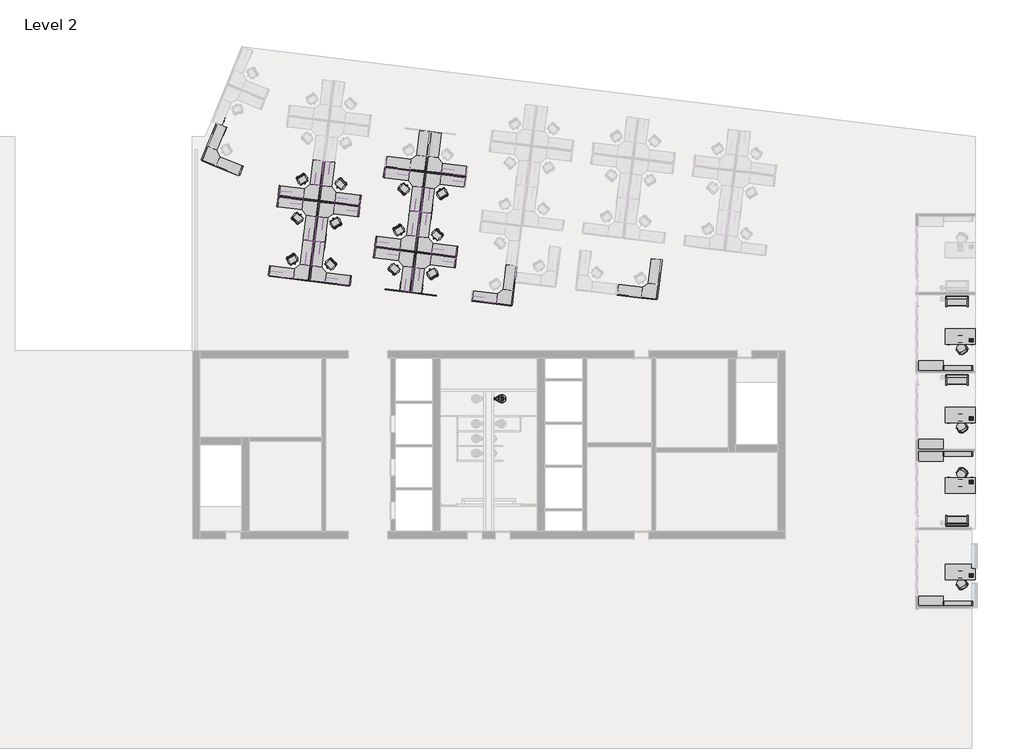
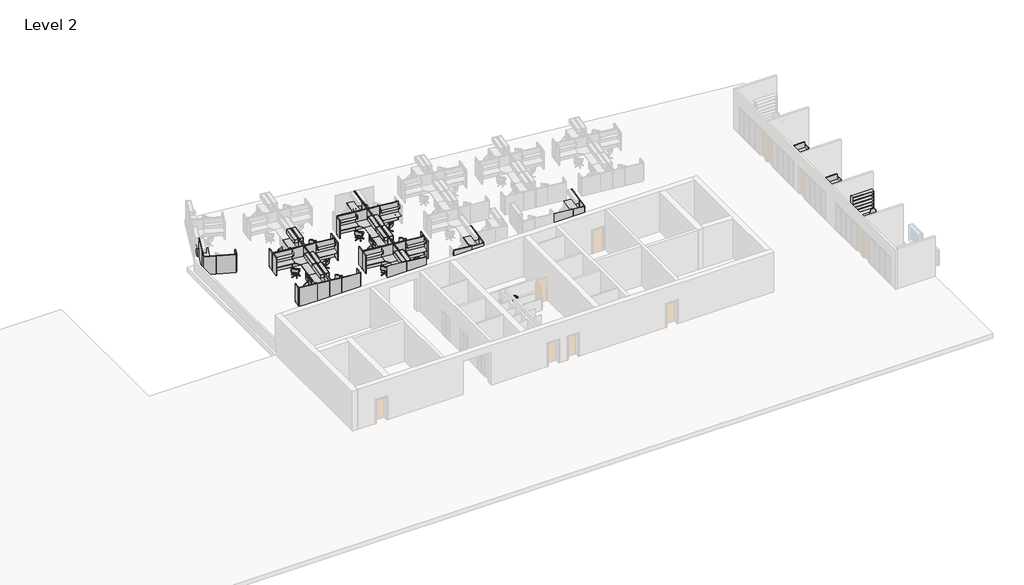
# One storey, part 4 of 6: 99 furniture elements, 4 proxies, 1 flow terminal.
"""IFC4 building model written with IfcOpenShell, lengths in millimetres."""

from ifc_helpers import new_model, si_unit, origin, place, context, project, spatial, transform, mapped, element, save
from components import phone_phone_5230e7aa, phone_phone_b8b7aebd, flow_terminal_184afdea, chair_executive_chair_executive_8d69e98c, chair_executive_chair_executive_a5be4872, chair_task_arms_chair_task_arms_3b363349, chair_task_arms_chair_task_arms_8395c10b, furniture_894c625b, furniture_2f1724fb, furniture_665347ce, furniture_3ceed070, furniture_00cef8f1, furniture_8d825890, furniture_2fc54265, furniture_91cd4dc0, overhead_shelving_module_overhead_shelving_module_3ee17988, overhead_shelving_module_overhead_shelving_module_7dcda1b9, overhead_storage_module_overhead_storage_module_326dc690, overhead_storage_module_overhead_storage_module_bea9f75f, furniture_6f8441ab, furniture_6d145fab, furniture_22419f35, furniture_8ec9ccbf, furniture_0333d240, furniture_4718bb14, furniture_45e3acac, furniture_7b33082a

model = new_model("IFC4")

# Units and contexts
model_context = context("Model", 3, world=origin())
ifc_project = project(units=[si_unit("LENGTHUNIT", "METRE", prefix="MILLI")], contexts=[model_context])

# Site, building, storey
site = spatial("IfcSite", under=ifc_project)
building = spatial("IfcBuilding", under=site)
storey = spatial("IfcBuildingStorey", under=building, Name="Level 2", Elevation=3657.6)

# Proxies
placement = place(None, origin())
phone_phone_shape = phone_phone_5230e7aa(model_context)
element("IfcBuildingElementProxy", 1, Name="Phone : Phone", ObjectType="Phone : Phone", at=placement, inside=storey, context=model_context, shape_type="MappedRepresentation", body=[
    mapped(phone_phone_shape, transform((15049.386755, -11543.7561102, 4419.6), x_axis=(1.0, 0.0, 0.0), y_axis=(0.0, 1.0, 0.0), z_axis=(0.0, 0.0, 1.0))),
])
phone_phone_2_shape = phone_phone_b8b7aebd(model_context)
element("IfcBuildingElementProxy", 2, Name="Phone : Phone", ObjectType="Phone : Phone", at=placement, inside=storey, context=model_context, shape_type="MappedRepresentation", body=[
    mapped(phone_phone_2_shape, transform((15049.386755, -2377.1766865, 4419.6), x_axis=(1.0, 0.0, 0.0), y_axis=(0.0, 1.0, 0.0), z_axis=(0.0, 0.0, 1.0))),
])
element("IfcBuildingElementProxy", 3, Name="Phone : Phone", ObjectType="Phone : Phone", at=placement, inside=storey, context=model_context, shape_type="MappedRepresentation", body=[
    mapped(phone_phone_2_shape, transform((15049.386755, -7211.6809871, 4419.6), x_axis=(1.0, 0.0, 0.0), y_axis=(0.0, 1.0, 0.0), z_axis=(0.0, 0.0, 1.0))),
])
element("IfcBuildingElementProxy", 4, Name="Phone : Phone", ObjectType="Phone : Phone", at=placement, inside=storey, context=model_context, shape_type="MappedRepresentation", body=[
    mapped(phone_phone_2_shape, transform((15049.386755, -16880.6895882, 4419.6), x_axis=(1.0, 0.0, 0.0), y_axis=(0.0, 1.0, 0.0), z_axis=(0.0, 0.0, 1.0))),
])

# Flow terminal
flow_terminal_shape = flow_terminal_184afdea(model_context)
element("IfcFlowTerminal", 5, ObjectType="Toilet-Commercial-Wall-3D : 15\" Seat Height", at=placement, inside=storey, context=model_context, shape_type="MappedRepresentation", body=[
    mapped(flow_terminal_shape, transform((-14687.1856498, -5795.2071954, 3657.6), x_axis=(0.0, -1.0, 0.0), y_axis=(1.0, 0.0, 0.0), z_axis=(0.0, 0.0, 1.0))),
])

# Furniture
chair_executive_chair_executive_shape = chair_executive_chair_executive_8d69e98c(model_context)
element("IfcFurniture", 6, ObjectType="Chair-Executive : Chair-Executive", at=placement, inside=storey, context=model_context, shape_type="MappedRepresentation", body=[
    mapped(chair_executive_chair_executive_shape, transform((14331.1988374, -10895.4183478, 3657.6), x_axis=(-0.8386705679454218, 0.5446390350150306, 0.0), y_axis=(-0.5446390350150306, -0.8386705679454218, 0.0), z_axis=(0.0, 0.0, 1.0))),
])
chair_executive_chair_executive_2_shape = chair_executive_chair_executive_a5be4872(model_context)
element("IfcFurniture", 7, ObjectType="Chair-Executive : Chair-Executive", at=placement, inside=storey, context=model_context, shape_type="MappedRepresentation", body=[
    mapped(chair_executive_chair_executive_2_shape, transform((14331.1988374, -3025.5144489, 3657.6), x_axis=(-0.8386705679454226, -0.5446390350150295, 0.0), y_axis=(0.5446390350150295, -0.8386705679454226, 0.0), z_axis=(0.0, 0.0, 1.0))),
])
element("IfcFurniture", 8, ObjectType="Chair-Executive : Chair-Executive", at=placement, inside=storey, context=model_context, shape_type="MappedRepresentation", body=[
    mapped(chair_executive_chair_executive_2_shape, transform((14331.1988374, -7860.0187495, 3657.6), x_axis=(-0.8386705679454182, -0.5446390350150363, 0.0), y_axis=(0.5446390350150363, -0.8386705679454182, 0.0), z_axis=(0.0, 0.0, 1.0))),
])
element("IfcFurniture", 9, ObjectType="Chair-Executive : Chair-Executive", at=placement, inside=storey, context=model_context, shape_type="MappedRepresentation", body=[
    mapped(chair_executive_chair_executive_2_shape, transform((14331.1988374, -17529.0273506, 3657.6), x_axis=(-0.8386705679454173, -0.5446390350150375, 0.0), y_axis=(0.5446390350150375, -0.8386705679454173, 0.0), z_axis=(0.0, 0.0, 1.0))),
])
chair_task_arms_chair_task_arms_shape = chair_task_arms_chair_task_arms_3b363349(model_context)
element("IfcFurniture", 10, ObjectType="Chair-Task Arms : Chair-Task Arms", at=placement, inside=storey, context=model_context, shape_type="MappedRepresentation", body=[
    mapped(chair_task_arms_chair_task_arms_shape, transform((-20294.5435692, 6809.0079878, 3657.6), x_axis=(0.719339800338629, -0.6946583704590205, 0.0), y_axis=(0.6946583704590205, 0.719339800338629, 0.0), z_axis=(0.0, 0.0, 1.0))),
])
element("IfcFurniture", 11, ObjectType="Chair-Task Arms : Chair-Task Arms", at=placement, inside=storey, context=model_context, shape_type="MappedRepresentation", body=[
    mapped(chair_task_arms_chair_task_arms_shape, transform((-23959.1336884, 6961.7514569, 3657.6), x_axis=(-0.7193398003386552, 0.6946583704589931, 0.0), y_axis=(-0.6946583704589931, -0.7193398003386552, 0.0), z_axis=(0.0, 0.0, 1.0))),
])
element("IfcFurniture", 12, ObjectType="Chair-Task Arms : Chair-Task Arms", at=placement, inside=storey, context=model_context, shape_type="MappedRepresentation", body=[
    mapped(chair_task_arms_chair_task_arms_shape, transform((-17997.8622143, 3824.2688972, 3657.6), x_axis=(-0.7193398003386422, 0.6946583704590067, 0.0), y_axis=(-0.6946583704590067, -0.7193398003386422, 0.0), z_axis=(0.0, 0.0, 1.0))),
])
element("IfcFurniture", 13, ObjectType="Chair-Task Arms : Chair-Task Arms", at=placement, inside=storey, context=model_context, shape_type="MappedRepresentation", body=[
    mapped(chair_task_arms_chair_task_arms_shape, transform((-24565.8480276, 2020.4596955, 3657.6), x_axis=(-0.7193398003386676, 0.6946583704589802, 0.0), y_axis=(-0.6946583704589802, -0.7193398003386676, 0.0), z_axis=(0.0, 0.0, 1.0))),
])
element("IfcFurniture", 14, ObjectType="Chair-Task Arms : Chair-Task Arms", at=placement, inside=storey, context=model_context, shape_type="MappedRepresentation", body=[
    mapped(chair_task_arms_chair_task_arms_shape, transform((-20901.2579084, 1867.7162265, 3657.6), x_axis=(0.7193398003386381, -0.694658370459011, 0.0), y_axis=(0.694658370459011, 0.7193398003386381, 0.0), z_axis=(0.0, 0.0, 1.0))),
])
element("IfcFurniture", 15, ObjectType="Chair-Task Arms : Chair-Task Arms", at=placement, inside=storey, context=model_context, shape_type="MappedRepresentation", body=[
    mapped(chair_task_arms_chair_task_arms_shape, transform((-26862.5293825, 5005.1987861, 3657.6), x_axis=(0.7193398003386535, -0.6946583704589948, 0.0), y_axis=(0.6946583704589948, 0.7193398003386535, 0.0), z_axis=(0.0, 0.0, 1.0))),
])
chair_task_arms_chair_task_arms_2_shape = chair_task_arms_chair_task_arms_8395c10b(model_context)
element("IfcFurniture", 16, ObjectType="Chair-Task Arms : Chair-Task Arms", at=placement, inside=storey, context=model_context, shape_type="MappedRepresentation", body=[
    mapped(chair_task_arms_chair_task_arms_2_shape, transform((-17670.9359707, 6486.8694808, 3657.6), x_axis=(-0.866025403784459, -0.49999999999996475, 0.0), y_axis=(0.49999999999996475, -0.866025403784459, 0.0), z_axis=(0.0, 0.0, 1.0))),
])
element("IfcFurniture", 17, ObjectType="Chair-Task Arms : Chair-Task Arms", at=placement, inside=storey, context=model_context, shape_type="MappedRepresentation", body=[
    mapped(chair_task_arms_chair_task_arms_2_shape, transform((-20621.4698127, 4146.4074042, 3657.6), x_axis=(0.8660254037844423, 0.4999999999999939, 0.0), y_axis=(-0.4999999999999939, 0.8660254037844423, 0.0), z_axis=(0.0, 0.0, 1.0))),
])
element("IfcFurniture", 18, ObjectType="Chair-Task Arms : Chair-Task Arms", at=placement, inside=storey, context=model_context, shape_type="MappedRepresentation", body=[
    mapped(chair_task_arms_chair_task_arms_2_shape, transform((-24238.921784, 4683.0602792, 3657.6), x_axis=(-0.8660254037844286, -0.5000000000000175, 0.0), y_axis=(0.5000000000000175, -0.8660254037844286, 0.0), z_axis=(0.0, 0.0, 1.0))),
])
element("IfcFurniture", 19, ObjectType="Chair-Task Arms : Chair-Task Arms", at=placement, inside=storey, context=model_context, shape_type="MappedRepresentation", body=[
    mapped(chair_task_arms_chair_task_arms_2_shape, transform((-18277.6503099, 1545.5777195, 3657.6), x_axis=(-0.8660254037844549, -0.4999999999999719, 0.0), y_axis=(0.4999999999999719, -0.8660254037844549, 0.0), z_axis=(0.0, 0.0, 1.0))),
])
element("IfcFurniture", 20, ObjectType="Chair-Task Arms : Chair-Task Arms", at=placement, inside=storey, context=model_context, shape_type="MappedRepresentation", body=[
    mapped(chair_task_arms_chair_task_arms_2_shape, transform((-26582.7412868, 7283.8899638, 3657.6), x_axis=(0.8660254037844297, 0.5000000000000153, 0.0), y_axis=(-0.5000000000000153, 0.8660254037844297, 0.0), z_axis=(0.0, 0.0, 1.0))),
])
element("IfcFurniture", 21, ObjectType="Chair-Task Arms : Chair-Task Arms", at=placement, inside=storey, context=model_context, shape_type="MappedRepresentation", body=[
    mapped(chair_task_arms_chair_task_arms_2_shape, transform((-27189.455626, 2342.5982025, 3657.6), x_axis=(0.8660254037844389, 0.49999999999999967, 0.0), y_axis=(-0.49999999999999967, 0.8660254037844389, 0.0), z_axis=(0.0, 0.0, 1.0))),
])
furniture_shape = furniture_894c625b(model_context)
element("IfcFurniture", 22, ObjectType="Credenza : 60\" x 24\"", at=placement, inside=storey, context=model_context, shape_type="MappedRepresentation", body=[
    mapped(furniture_shape, transform((12221.5111465, -4173.1445759, 3657.6), x_axis=(1.0, 0.0, 0.0), y_axis=(0.0, 1.0, 0.0), z_axis=(0.0, 0.0, 1.0))),
])
element("IfcFurniture", 23, ObjectType="Credenza : 60\" x 24\"", at=placement, inside=storey, context=model_context, shape_type="MappedRepresentation", body=[
    mapped(furniture_shape, transform((12221.5111465, -9007.6488765, 3657.6), x_axis=(1.0, 0.0, 0.0), y_axis=(0.0, 1.0, 0.0), z_axis=(0.0, 0.0, 1.0))),
])
element("IfcFurniture", 24, ObjectType="Credenza : 60\" x 24\"", at=placement, inside=storey, context=model_context, shape_type="MappedRepresentation", body=[
    mapped(furniture_shape, transform((12221.5111465, -18676.6574776, 3657.6), x_axis=(1.0, 0.0, 0.0), y_axis=(0.0, 1.0, 0.0), z_axis=(0.0, 0.0, 1.0))),
])
furniture_2_shape = furniture_2f1724fb(model_context)
element("IfcFurniture", 25, ObjectType="Credenza : 60\" x 24\"", at=placement, inside=storey, context=model_context, shape_type="MappedRepresentation", body=[
    mapped(furniture_2_shape, transform((12221.5111465, -9747.7882208, 3657.6), x_axis=(1.0, 0.0, 0.0), y_axis=(0.0, 1.0, 0.0), z_axis=(0.0, 0.0, 1.0))),
])
furniture_3_shape = furniture_665347ce(model_context)
element("IfcFurniture", 26, ObjectType="Cube Panel : 24\" x 66\"", at=placement, inside=storey, context=model_context, shape_type="MappedRepresentation", body=[
    mapped(furniture_3_shape, transform((-21382.0390135, 7740.7875626, 3657.6), x_axis=(-0.12186934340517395, -0.9925461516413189, 0.0), y_axis=(0.9925461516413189, -0.12186934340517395, 0.0), z_axis=(0.0, 0.0, 1.0))),
])
element("IfcFurniture", 27, ObjectType="Cube Panel : 24\" x 66\"", at=placement, inside=storey, context=model_context, shape_type="MappedRepresentation", body=[
    mapped(furniture_3_shape, transform((-22871.638244, 6029.9718821, 3657.6), x_axis=(0.12186934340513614, 0.9925461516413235, 0.0), y_axis=(-0.9925461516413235, 0.12186934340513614, 0.0), z_axis=(0.0, 0.0, 1.0))),
])
element("IfcFurniture", 28, ObjectType="Cube Panel : 24\" x 66\"", at=placement, inside=storey, context=model_context, shape_type="MappedRepresentation", body=[
    mapped(furniture_3_shape, transform((-16910.3667699, 2892.4893225, 3657.6), x_axis=(0.12186934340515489, 0.9925461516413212, 0.0), y_axis=(-0.9925461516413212, 0.12186934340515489, 0.0), z_axis=(0.0, 0.0, 1.0))),
])
element("IfcFurniture", 29, ObjectType="Cube Panel : 24\" x 66\"", at=placement, inside=storey, context=model_context, shape_type="MappedRepresentation", body=[
    mapped(furniture_3_shape, transform((-23478.3525832, 1088.6801208, 3657.6), x_axis=(0.12186934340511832, 0.9925461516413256, 0.0), y_axis=(-0.9925461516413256, 0.12186934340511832, 0.0), z_axis=(0.0, 0.0, 1.0))),
])
element("IfcFurniture", 30, ObjectType="Cube Panel : 24\" x 66\"", at=placement, inside=storey, context=model_context, shape_type="MappedRepresentation", body=[
    mapped(furniture_3_shape, transform((-21988.7533528, 2799.4958013, 3657.6), x_axis=(-0.12186934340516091, -0.9925461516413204, 0.0), y_axis=(0.9925461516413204, -0.12186934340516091, 0.0), z_axis=(0.0, 0.0, 1.0))),
])
element("IfcFurniture", 31, ObjectType="Cube Panel : 24\" x 66\"", at=placement, inside=storey, context=model_context, shape_type="MappedRepresentation", body=[
    mapped(furniture_3_shape, transform((-27950.0248269, 5936.9783609, 3657.6), x_axis=(-0.12186934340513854, -0.9925461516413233, 0.0), y_axis=(0.9925461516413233, -0.12186934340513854, 0.0), z_axis=(0.0, 0.0, 1.0))),
])
element("IfcFurniture", 32, ObjectType="Cube Panel : 24\" x 66\"", at=placement, inside=storey, context=model_context, shape_type="MappedRepresentation", body=[
    mapped(furniture_3_shape, transform((-30219.5912683, 7857.7185256, 3657.6), x_axis=(0.3785502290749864, 0.9255807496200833, 0.0), y_axis=(-0.9255807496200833, 0.3785502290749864, 0.0), z_axis=(0.0, 0.0, 1.0))),
])
furniture_4_shape = furniture_3ceed070(model_context)
element("IfcFurniture", 33, ObjectType="Cube Panel : 24\" x 66\"", at=placement, inside=storey, context=model_context, shape_type="MappedRepresentation", body=[
    mapped(furniture_4_shape, transform((-21902.0798757, 3505.3946243, 3657.6), x_axis=(0.12186934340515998, 0.9925461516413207, 0.0), y_axis=(-0.9925461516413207, 0.12186934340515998, 0.0), z_axis=(0.0, 0.0, 1.0))),
])
element("IfcFurniture", 34, ObjectType="Cube Panel : 24\" x 66\"", at=placement, inside=storey, context=model_context, shape_type="MappedRepresentation", body=[
    mapped(furniture_4_shape, transform((-22958.311721, 5324.073059, 3657.6), x_axis=(-0.12186934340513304, -0.992546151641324, 0.0), y_axis=(0.992546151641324, -0.12186934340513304, 0.0), z_axis=(0.0, 0.0, 1.0))),
])
element("IfcFurniture", 35, ObjectType="Cube Panel : 24\" x 66\"", at=placement, inside=storey, context=model_context, shape_type="MappedRepresentation", body=[
    mapped(furniture_4_shape, transform((-16997.0402469, 2186.5904994, 3657.6), x_axis=(-0.12186934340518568, -0.9925461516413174, 0.0), y_axis=(0.9925461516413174, -0.12186934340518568, 0.0), z_axis=(0.0, 0.0, 1.0))),
])
element("IfcFurniture", 36, ObjectType="Cube Panel : 24\" x 66\"", at=placement, inside=storey, context=model_context, shape_type="MappedRepresentation", body=[
    mapped(furniture_4_shape, transform((-27863.3513498, 6642.8771839, 3657.6), x_axis=(0.12186934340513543, 0.9925461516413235, 0.0), y_axis=(-0.9925461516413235, 0.12186934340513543, 0.0), z_axis=(0.0, 0.0, 1.0))),
])
element("IfcFurniture", 37, ObjectType="Cube Panel : 24\" x 66\"", at=placement, inside=storey, context=model_context, shape_type="MappedRepresentation", body=[
    mapped(furniture_4_shape, transform((-28470.065689, 1701.5854226, 3657.6), x_axis=(0.12186934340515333, 0.9925461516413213, 0.0), y_axis=(-0.9925461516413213, 0.12186934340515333, 0.0), z_axis=(0.0, 0.0, 1.0))),
])
furniture_5_shape = furniture_00cef8f1(model_context)
element("IfcFurniture", 38, ObjectType="Cube Panel : 60\" x 66\"", at=placement, inside=storey, context=model_context, shape_type="MappedRepresentation", body=[
    mapped(furniture_5_shape, transform((-20562.7542243, 449.1914113, 3657.6), x_axis=(-0.9925461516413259, 0.12186934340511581, 0.0), y_axis=(-0.12186934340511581, -0.9925461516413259, 0.0), z_axis=(0.0, 0.0, 1.0))),
])
furniture_6_shape = furniture_8d825890(model_context)
element("IfcFurniture", 39, ObjectType="Cube Panel : 60\" x 66\"", at=placement, inside=storey, context=model_context, shape_type="MappedRepresentation", body=[
    mapped(furniture_6_shape, transform((-18949.2712002, 251.0806066, 3657.6), x_axis=(0.9925461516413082, -0.12186934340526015, 0.0), y_axis=(0.12186934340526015, 0.9925461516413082, 0.0), z_axis=(0.0, 0.0, 1.0))),
])
furniture_7_shape = furniture_2fc54265(model_context)
element("IfcFurniture", 40, ObjectType="Desk : 72\" x 36\"", at=placement, inside=storey, context=model_context, shape_type="MappedRepresentation", body=[
    mapped(furniture_7_shape, transform((13214.5054088, -12007.5598812, 3657.6), x_axis=(1.0, 0.0, 0.0), y_axis=(0.0, 1.0, 0.0), z_axis=(0.0, 0.0, 1.0))),
])
furniture_8_shape = furniture_91cd4dc0(model_context)
element("IfcFurniture", 41, ObjectType="Desk : 72\" x 36\"", at=placement, inside=storey, context=model_context, shape_type="MappedRepresentation", body=[
    mapped(furniture_8_shape, transform((13214.5054088, -1913.3729155, 3657.6), x_axis=(1.0, 0.0, 0.0), y_axis=(0.0, 1.0, 0.0), z_axis=(0.0, 0.0, 1.0))),
])
element("IfcFurniture", 42, ObjectType="Desk : 72\" x 36\"", at=placement, inside=storey, context=model_context, shape_type="MappedRepresentation", body=[
    mapped(furniture_8_shape, transform((13214.5054088, -6747.877216, 3657.6), x_axis=(1.0, 0.0, 0.0), y_axis=(0.0, 1.0, 0.0), z_axis=(0.0, 0.0, 1.0))),
])
element("IfcFurniture", 43, ObjectType="Desk : 72\" x 36\"", at=placement, inside=storey, context=model_context, shape_type="MappedRepresentation", body=[
    mapped(furniture_8_shape, transform((13214.5054088, -16416.8858172, 3657.6), x_axis=(1.0, 0.0, 0.0), y_axis=(0.0, 1.0, 0.0), z_axis=(0.0, 0.0, 1.0))),
])
overhead_shelving_module_overhead_shelving_module_shape = overhead_shelving_module_overhead_shelving_module_3ee17988(model_context)
element("IfcFurniture", 44, ObjectType="Overhead Shelving Module : Overhead Shelving Module", at=placement, inside=storey, context=model_context, shape_type="MappedRepresentation", body=[
    mapped(overhead_shelving_module_overhead_shelving_module_shape, transform((-20435.5371217, 7693.7235514, 3505.2), x_axis=(0.9925461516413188, -0.12186934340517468, 0.0), y_axis=(0.12186934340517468, 0.9925461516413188, 0.0), z_axis=(0.0, 0.0, 1.0))),
])
element("IfcFurniture", 45, ObjectType="Overhead Shelving Module : Overhead Shelving Module", at=placement, inside=storey, context=model_context, shape_type="MappedRepresentation", body=[
    mapped(overhead_shelving_module_overhead_shelving_module_shape, transform((-17250.1543225, 7880.8450949, 3505.2), x_axis=(-0.9925461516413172, 0.12186934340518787, 0.0), y_axis=(-0.12186934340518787, -0.9925461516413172, 0.0), z_axis=(0.0, 0.0, 1.0))),
])
element("IfcFurniture", 46, ObjectType="Overhead Shelving Module : Overhead Shelving Module", at=placement, inside=storey, context=model_context, shape_type="MappedRepresentation", body=[
    mapped(overhead_shelving_module_overhead_shelving_module_shape, transform((-23818.1401358, 6077.0358932, 3505.2), x_axis=(-0.9925461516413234, 0.12186934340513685, 0.0), y_axis=(-0.12186934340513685, -0.9925461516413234, 0.0), z_axis=(0.0, 0.0, 1.0))),
])
element("IfcFurniture", 47, ObjectType="Overhead Shelving Module : Overhead Shelving Module", at=placement, inside=storey, context=model_context, shape_type="MappedRepresentation", body=[
    mapped(overhead_shelving_module_overhead_shelving_module_shape, transform((-17856.8686617, 2939.5533336, 3505.2), x_axis=(-0.9925461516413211, 0.12186934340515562, 0.0), y_axis=(-0.12186934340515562, -0.9925461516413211, 0.0), z_axis=(0.0, 0.0, 1.0))),
])
element("IfcFurniture", 48, ObjectType="Overhead Shelving Module : Overhead Shelving Module", at=placement, inside=storey, context=model_context, shape_type="MappedRepresentation", body=[
    mapped(overhead_shelving_module_overhead_shelving_module_shape, transform((-24424.8544751, 1135.7441319, 3505.2), x_axis=(-0.9925461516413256, 0.12186934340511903, 0.0), y_axis=(-0.12186934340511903, -0.9925461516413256, 0.0), z_axis=(0.0, 0.0, 1.0))),
])
element("IfcFurniture", 49, ObjectType="Overhead Shelving Module : Overhead Shelving Module", at=placement, inside=storey, context=model_context, shape_type="MappedRepresentation", body=[
    mapped(overhead_shelving_module_overhead_shelving_module_shape, transform((-21042.2514609, 2752.4317901, 3505.2), x_axis=(0.9925461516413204, -0.12186934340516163, 0.0), y_axis=(0.12186934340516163, 0.9925461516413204, 0.0), z_axis=(0.0, 0.0, 1.0))),
])
element("IfcFurniture", 50, ObjectType="Overhead Shelving Module : Overhead Shelving Module", at=placement, inside=storey, context=model_context, shape_type="MappedRepresentation", body=[
    mapped(overhead_shelving_module_overhead_shelving_module_shape, transform((-27003.522935, 5889.9143497, 3505.2), x_axis=(0.9925461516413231, -0.12186934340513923, 0.0), y_axis=(0.12186934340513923, 0.9925461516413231, 0.0), z_axis=(0.0, 0.0, 1.0))),
])
overhead_shelving_module_overhead_shelving_module_2_shape = overhead_shelving_module_overhead_shelving_module_7dcda1b9(model_context)
element("IfcFurniture", 51, ObjectType="Overhead Shelving Module : Overhead Shelving Module", at=placement, inside=storey, context=model_context, shape_type="MappedRepresentation", body=[
    mapped(overhead_shelving_module_overhead_shelving_module_2_shape, transform((-17320.0984631, 7311.1957837, 3505.2), x_axis=(-0.9925461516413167, 0.12186934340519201, 0.0), y_axis=(-0.12186934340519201, -0.9925461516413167, 0.0), z_axis=(0.0, 0.0, 1.0))),
])
element("IfcFurniture", 52, ObjectType="Overhead Shelving Module : Overhead Shelving Module", at=placement, inside=storey, context=model_context, shape_type="MappedRepresentation", body=[
    mapped(overhead_shelving_module_overhead_shelving_module_2_shape, transform((-20972.3073204, 3322.0811013, 3505.2), x_axis=(0.9925461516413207, -0.12186934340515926, 0.0), y_axis=(0.12186934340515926, 0.9925461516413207, 0.0), z_axis=(0.0, 0.0, 1.0))),
])
element("IfcFurniture", 53, ObjectType="Overhead Shelving Module : Overhead Shelving Module", at=placement, inside=storey, context=model_context, shape_type="MappedRepresentation", body=[
    mapped(overhead_shelving_module_overhead_shelving_module_2_shape, transform((-15035.7996968, -17.0868363, 3505.2), x_axis=(0.9925461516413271, -0.12186934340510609, 0.0), y_axis=(0.12186934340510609, 0.9925461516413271, 0.0), z_axis=(0.0, 0.0, 1.0))),
])
element("IfcFurniture", 54, ObjectType="Overhead Shelving Module : Overhead Shelving Module", at=placement, inside=storey, context=model_context, shape_type="MappedRepresentation", body=[
    mapped(overhead_shelving_module_overhead_shelving_module_2_shape, transform((-23888.0842764, 5507.386582, 3505.2), x_axis=(-0.992546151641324, 0.12186934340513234, 0.0), y_axis=(-0.12186934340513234, -0.992546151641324, 0.0), z_axis=(0.0, 0.0, 1.0))),
])
element("IfcFurniture", 55, ObjectType="Overhead Shelving Module : Overhead Shelving Module", at=placement, inside=storey, context=model_context, shape_type="MappedRepresentation", body=[
    mapped(overhead_shelving_module_overhead_shelving_module_2_shape, transform((-17926.8128023, 2369.9040224, 3505.2), x_axis=(-0.9925461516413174, 0.12186934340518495, 0.0), y_axis=(-0.12186934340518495, -0.9925461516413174, 0.0), z_axis=(0.0, 0.0, 1.0))),
])
element("IfcFurniture", 56, ObjectType="Overhead Shelving Module : Overhead Shelving Module", at=placement, inside=storey, context=model_context, shape_type="MappedRepresentation", body=[
    mapped(overhead_shelving_module_overhead_shelving_module_2_shape, transform((-26933.5787945, 6459.563661, 3505.2), x_axis=(0.9925461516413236, -0.12186934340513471, 0.0), y_axis=(0.12186934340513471, 0.9925461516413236, 0.0), z_axis=(0.0, 0.0, 1.0))),
])
element("IfcFurniture", 57, ObjectType="Overhead Shelving Module : Overhead Shelving Module", at=placement, inside=storey, context=model_context, shape_type="MappedRepresentation", body=[
    mapped(overhead_shelving_module_overhead_shelving_module_2_shape, transform((-27540.2931337, 1518.2718996, 3505.2), x_axis=(0.9925461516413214, -0.12186934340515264, 0.0), y_axis=(0.12186934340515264, 0.9925461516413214, 0.0), z_axis=(0.0, 0.0, 1.0))),
])
overhead_storage_module_overhead_storage_module_shape = overhead_storage_module_overhead_storage_module_326dc690(model_context)
element("IfcFurniture", 58, ObjectType="Overhead Storage Module : Overhead Storage Module", at=placement, inside=storey, context=model_context, shape_type="MappedRepresentation", body=[
    mapped(overhead_storage_module_overhead_storage_module_shape, transform((-19357.3919537, 5951.3242965, 3657.6), x_axis=(-0.12186934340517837, -0.9925461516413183, 0.0), y_axis=(0.9925461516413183, -0.12186934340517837, 0.0), z_axis=(0.0, 0.0, 1.0))),
])
element("IfcFurniture", 59, ObjectType="Overhead Storage Module : Overhead Storage Module", at=placement, inside=storey, context=model_context, shape_type="MappedRepresentation", body=[
    mapped(overhead_storage_module_overhead_storage_module_shape, transform((-24896.2853038, 7819.4351481, 3657.6), x_axis=(0.12186934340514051, 0.992546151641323, 0.0), y_axis=(-0.992546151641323, 0.12186934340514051, 0.0), z_axis=(0.0, 0.0, 1.0))),
])
element("IfcFurniture", 60, ObjectType="Overhead Storage Module : Overhead Storage Module", at=placement, inside=storey, context=model_context, shape_type="MappedRepresentation", body=[
    mapped(overhead_storage_module_overhead_storage_module_shape, transform((-18935.0138297, 4681.9525885, 3657.6), x_axis=(0.12186934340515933, 0.9925461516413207, 0.0), y_axis=(-0.9925461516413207, 0.12186934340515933, 0.0), z_axis=(0.0, 0.0, 1.0))),
])
element("IfcFurniture", 61, ObjectType="Overhead Storage Module : Overhead Storage Module", at=placement, inside=storey, context=model_context, shape_type="MappedRepresentation", body=[
    mapped(overhead_storage_module_overhead_storage_module_shape, transform((-25502.999643, 2878.1433868, 3657.6), x_axis=(0.12186934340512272, 0.9925461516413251, 0.0), y_axis=(-0.9925461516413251, 0.12186934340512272, 0.0), z_axis=(0.0, 0.0, 1.0))),
])
element("IfcFurniture", 62, ObjectType="Overhead Storage Module : Overhead Storage Module", at=placement, inside=storey, context=model_context, shape_type="MappedRepresentation", body=[
    mapped(overhead_storage_module_overhead_storage_module_shape, transform((-19964.1062929, 1010.0325352, 3657.6), x_axis=(-0.12186934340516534, -0.99254615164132, 0.0), y_axis=(0.99254615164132, -0.12186934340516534, 0.0), z_axis=(0.0, 0.0, 1.0))),
])
element("IfcFurniture", 63, ObjectType="Overhead Storage Module : Overhead Storage Module", at=placement, inside=storey, context=model_context, shape_type="MappedRepresentation", body=[
    mapped(overhead_storage_module_overhead_storage_module_shape, transform((-25925.377767, 4147.5150948, 3657.6), x_axis=(-0.12186934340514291, -0.9925461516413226, 0.0), y_axis=(0.9925461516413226, -0.12186934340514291, 0.0), z_axis=(0.0, 0.0, 1.0))),
])
overhead_storage_module_overhead_storage_module_2_shape = overhead_storage_module_overhead_storage_module_bea9f75f(model_context)
element("IfcFurniture", 64, ObjectType="Overhead Storage Module : Overhead Storage Module", at=placement, inside=storey, context=model_context, shape_type="MappedRepresentation", body=[
    mapped(overhead_storage_module_overhead_storage_module_2_shape, transform((-18787.7426425, 5881.380156, 3657.6), x_axis=(-0.1218693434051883, -0.9925461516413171, 0.0), y_axis=(0.9925461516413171, -0.1218693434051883, 0.0), z_axis=(0.0, 0.0, 1.0))),
])
element("IfcFurniture", 65, ObjectType="Overhead Storage Module : Overhead Storage Module", at=placement, inside=storey, context=model_context, shape_type="MappedRepresentation", body=[
    mapped(overhead_storage_module_overhead_storage_module_2_shape, transform((-19504.6631409, 4751.896729, 3657.6), x_axis=(0.12186934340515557, 0.9925461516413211, 0.0), y_axis=(-0.9925461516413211, 0.12186934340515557, 0.0), z_axis=(0.0, 0.0, 1.0))),
])
element("IfcFurniture", 66, ObjectType="Overhead Storage Module : Overhead Storage Module", at=placement, inside=storey, context=model_context, shape_type="MappedRepresentation", body=[
    mapped(overhead_storage_module_overhead_storage_module_2_shape, transform((-25355.7284558, 4077.5709543, 3657.6), x_axis=(-0.12186934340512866, -0.9925461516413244, 0.0), y_axis=(0.9925461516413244, -0.12186934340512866, 0.0), z_axis=(0.0, 0.0, 1.0))),
])
element("IfcFurniture", 67, ObjectType="Overhead Storage Module : Overhead Storage Module", at=placement, inside=storey, context=model_context, shape_type="MappedRepresentation", body=[
    mapped(overhead_storage_module_overhead_storage_module_2_shape, transform((-19394.4569817, 940.0883947, 3657.6), x_axis=(-0.12186934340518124, -0.992546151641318, 0.0), y_axis=(0.992546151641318, -0.12186934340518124, 0.0), z_axis=(0.0, 0.0, 1.0))),
])
element("IfcFurniture", 68, ObjectType="Overhead Storage Module : Overhead Storage Module", at=placement, inside=storey, context=model_context, shape_type="MappedRepresentation", body=[
    mapped(overhead_storage_module_overhead_storage_module_2_shape, transform((-25465.934615, 7889.3792887, 3657.6), x_axis=(0.12186934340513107, 0.9925461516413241, 0.0), y_axis=(-0.9925461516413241, 0.12186934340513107, 0.0), z_axis=(0.0, 0.0, 1.0))),
])
element("IfcFurniture", 69, ObjectType="Overhead Storage Module : Overhead Storage Module", at=placement, inside=storey, context=model_context, shape_type="MappedRepresentation", body=[
    mapped(overhead_storage_module_overhead_storage_module_2_shape, transform((-26072.6489542, 2948.0875274, 3657.6), x_axis=(0.12186934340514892, 0.9925461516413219, 0.0), y_axis=(-0.9925461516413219, 0.12186934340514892, 0.0), z_axis=(0.0, 0.0, 1.0))),
])
furniture_9_shape = furniture_6f8441ab(model_context)
element("IfcFurniture", 70, ObjectType="Shelving : 96\" x 12\" x 84\"", at=placement, inside=storey, context=model_context, shape_type="MappedRepresentation", body=[
    mapped(furniture_9_shape, transform((13982.8554088, -9295.1685486, 3657.6), x_axis=(1.0, 0.0, 0.0), y_axis=(0.0, 1.0, 0.0), z_axis=(0.0, 0.0, 1.0))),
])
furniture_10_shape = furniture_6d145fab(model_context)
element("IfcFurniture", 71, ObjectType="Shelving : 96\" x 12\" x 84\"", at=placement, inside=storey, context=model_context, shape_type="MappedRepresentation", body=[
    mapped(furniture_10_shape, transform((13982.8554088, -4625.7642481, 3657.6), x_axis=(1.0, 0.0, 0.0), y_axis=(0.0, 1.0, 0.0), z_axis=(0.0, 0.0, 1.0))),
])
element("IfcFurniture", 72, ObjectType="Shelving : 96\" x 12\" x 84\"", at=placement, inside=storey, context=model_context, shape_type="MappedRepresentation", body=[
    mapped(furniture_10_shape, transform((13982.8554088, -19129.2771498, 3657.6), x_axis=(1.0, 0.0, 0.0), y_axis=(0.0, 1.0, 0.0), z_axis=(0.0, 0.0, 1.0))),
])
furniture_11_shape = furniture_22419f35(model_context)
element("IfcFurniture", 73, ObjectType="Sofa : 54\"", at=placement, inside=storey, context=model_context, shape_type="MappedRepresentation", body=[
    mapped(furniture_11_shape, transform((13848.0435844, -350.5126789, 3657.6), x_axis=(1.0, 0.0, 0.0), y_axis=(0.0, 1.0, 0.0), z_axis=(0.0, 0.0, 1.0))),
])
element("IfcFurniture", 74, ObjectType="Sofa : 54\"", at=placement, inside=storey, context=model_context, shape_type="MappedRepresentation", body=[
    mapped(furniture_11_shape, transform((13848.0435844, -5185.0169794, 3657.6), x_axis=(1.0, 0.0, 0.0), y_axis=(0.0, 1.0, 0.0), z_axis=(0.0, 0.0, 1.0))),
])
furniture_12_shape = furniture_8ec9ccbf(model_context)
element("IfcFurniture", 75, ObjectType="Sofa : 54\"", at=placement, inside=storey, context=model_context, shape_type="MappedRepresentation", body=[
    mapped(furniture_12_shape, transform((13848.0435844, -13570.4201178, 3657.6), x_axis=(1.0, 0.0, 0.0), y_axis=(0.0, 1.0, 0.0), z_axis=(0.0, 0.0, 1.0))),
])
furniture_13_shape = furniture_0333d240(model_context)
element("IfcFurniture", 76, ObjectType="Storage Pedestal : 20\" x 30\" x 36\"", at=placement, inside=storey, context=model_context, shape_type="MappedRepresentation", body=[
    mapped(furniture_13_shape, transform((-18629.0164744, 5353.259729, 3657.6), x_axis=(-0.12186934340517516, -0.9925461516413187, 0.0), y_axis=(0.9925461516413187, -0.12186934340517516, 0.0), z_axis=(0.0, 0.0, 1.0))),
])
element("IfcFurniture", 77, ObjectType="Storage Pedestal : 20\" x 30\" x 36\"", at=placement, inside=storey, context=model_context, shape_type="MappedRepresentation", body=[
    mapped(furniture_13_shape, transform((-19663.3893091, 5280.017156, 3657.6), x_axis=(0.12186934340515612, 0.9925461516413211, 0.0), y_axis=(-0.9925461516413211, 0.12186934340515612, 0.0), z_axis=(0.0, 0.0, 1.0))),
])
element("IfcFurniture", 78, ObjectType="Storage Pedestal : 20\" x 30\" x 36\"", at=placement, inside=storey, context=model_context, shape_type="MappedRepresentation", body=[
    mapped(furniture_13_shape, transform((-26231.3751224, 3476.2079543, 3657.6), x_axis=(0.12186934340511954, 0.9925461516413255, 0.0), y_axis=(-0.9925461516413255, 0.12186934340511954, 0.0), z_axis=(0.0, 0.0, 1.0))),
])
element("IfcFurniture", 79, ObjectType="Storage Pedestal : 20\" x 30\" x 36\"", at=placement, inside=storey, context=model_context, shape_type="MappedRepresentation", body=[
    mapped(furniture_13_shape, transform((-19235.7308136, 411.9679677, 3657.6), x_axis=(-0.12186934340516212, -0.9925461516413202, 0.0), y_axis=(0.9925461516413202, -0.12186934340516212, 0.0), z_axis=(0.0, 0.0, 1.0))),
])
element("IfcFurniture", 80, ObjectType="Storage Pedestal : 20\" x 30\" x 36\"", at=placement, inside=storey, context=model_context, shape_type="MappedRepresentation", body=[
    mapped(furniture_13_shape, transform((-25197.0022877, 3549.4505273, 3657.6), x_axis=(-0.12186934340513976, -0.9925461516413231, 0.0), y_axis=(0.9925461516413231, -0.12186934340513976, 0.0), z_axis=(0.0, 0.0, 1.0))),
])
element("IfcFurniture", 81, ObjectType="Storage Pedestal : 20\" x 30\" x 36\"", at=placement, inside=storey, context=model_context, shape_type="MappedRepresentation", body=[
    mapped(furniture_13_shape, transform((-32247.9999957, 10885.0903713, 3657.6), x_axis=(0.37855022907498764, 0.9255807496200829, 0.0), y_axis=(-0.9255807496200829, 0.37855022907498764, 0.0), z_axis=(0.0, 0.0, 1.0))),
])
furniture_14_shape = furniture_4718bb14(model_context)
element("IfcFurniture", 82, ObjectType="Storage Pedestal : 20\" x 30\" x 36\"", at=placement, inside=storey, context=model_context, shape_type="MappedRepresentation", body=[
    mapped(furniture_14_shape, transform((-19639.1671711, 5477.2906387, 3657.6), x_axis=(-0.12186934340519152, -0.9925461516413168, 0.0), y_axis=(0.9925461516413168, -0.12186934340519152, 0.0), z_axis=(0.0, 0.0, 1.0))),
])
element("IfcFurniture", 83, ObjectType="Storage Pedestal : 20\" x 30\" x 36\"", at=placement, inside=storey, context=model_context, shape_type="MappedRepresentation", body=[
    mapped(furniture_14_shape, transform((-18653.2386123, 5155.9862463, 3657.6), x_axis=(0.12186934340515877, 0.9925461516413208, 0.0), y_axis=(-0.9925461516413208, 0.12186934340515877, 0.0), z_axis=(0.0, 0.0, 1.0))),
])
element("IfcFurniture", 84, ObjectType="Storage Pedestal : 20\" x 30\" x 36\"", at=placement, inside=storey, context=model_context, shape_type="MappedRepresentation", body=[
    mapped(furniture_14_shape, transform((-26207.1529844, 3673.481437, 3657.6), x_axis=(-0.12186934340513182, -0.9925461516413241, 0.0), y_axis=(0.9925461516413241, -0.12186934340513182, 0.0), z_axis=(0.0, 0.0, 1.0))),
])
element("IfcFurniture", 85, ObjectType="Storage Pedestal : 20\" x 30\" x 36\"", at=placement, inside=storey, context=model_context, shape_type="MappedRepresentation", body=[
    mapped(furniture_14_shape, transform((-20245.8815103, 535.9988774, 3657.6), x_axis=(-0.12186934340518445, -0.9925461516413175, 0.0), y_axis=(0.9925461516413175, -0.12186934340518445, 0.0), z_axis=(0.0, 0.0, 1.0))),
])
element("IfcFurniture", 86, ObjectType="Storage Pedestal : 20\" x 30\" x 36\"", at=placement, inside=storey, context=model_context, shape_type="MappedRepresentation", body=[
    mapped(furniture_14_shape, transform((-25221.2244257, 3352.1770446, 3657.6), x_axis=(0.12186934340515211, 0.9925461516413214, 0.0), y_axis=(-0.9925461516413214, 0.12186934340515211, 0.0), z_axis=(0.0, 0.0, 1.0))),
])
element("IfcFurniture", 87, ObjectType="Storage Pedestal : 20\" x 30\" x 36\"", at=placement, inside=storey, context=model_context, shape_type="MappedRepresentation", body=[
    mapped(furniture_14_shape, transform((-32454.8782679, 11184.4362572, 3657.6), x_axis=(-0.3785502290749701, -0.9255807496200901, 0.0), y_axis=(0.9255807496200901, -0.3785502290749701, 0.0), z_axis=(0.0, 0.0, 1.0))),
])
furniture_15_shape = furniture_45e3acac(model_context)
element("IfcFurniture", 88, ObjectType="Work Station Cubicle : 96\" x 96\"", at=placement, inside=storey, context=model_context, shape_type="MappedRepresentation", body=[
    mapped(furniture_15_shape, transform((-18367.5666031, 7596.2063506, 3657.6), x_axis=(-0.12186934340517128, -0.9925461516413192, 0.0), y_axis=(0.9925461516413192, -0.12186934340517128, 0.0), z_axis=(0.0, 0.0, 1.0))),
])
element("IfcFurniture", 89, ObjectType="Work Station Cubicle : 96\" x 96\"", at=placement, inside=storey, context=model_context, shape_type="MappedRepresentation", body=[
    mapped(furniture_15_shape, transform((-19318.1248412, 7978.3622958, 3657.6), x_axis=(0.12186934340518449, 0.9925461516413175, 0.0), y_axis=(-0.9925461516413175, 0.12186934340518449, 0.0), z_axis=(0.0, 0.0, 1.0))),
])
element("IfcFurniture", 90, ObjectType="Work Station Cubicle : 96\" x 96\"", at=placement, inside=storey, context=model_context, shape_type="MappedRepresentation", body=[
    mapped(furniture_15_shape, transform((-25886.1106545, 6174.5530941, 3657.6), x_axis=(0.12186934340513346, 0.9925461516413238, 0.0), y_axis=(-0.9925461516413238, 0.12186934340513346, 0.0), z_axis=(0.0, 0.0, 1.0))),
])
element("IfcFurniture", 91, ObjectType="Work Station Cubicle : 96\" x 96\"", at=placement, inside=storey, context=model_context, shape_type="MappedRepresentation", body=[
    mapped(furniture_15_shape, transform((-19924.8391804, 3037.0705345, 3657.6), x_axis=(0.1218693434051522, 0.9925461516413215, 0.0), y_axis=(-0.9925461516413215, 0.1218693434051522, 0.0), z_axis=(0.0, 0.0, 1.0))),
])
element("IfcFurniture", 92, ObjectType="Work Station Cubicle : 96\" x 96\"", at=placement, inside=storey, context=model_context, shape_type="MappedRepresentation", body=[
    mapped(furniture_15_shape, transform((-26492.8249937, 1233.2613328, 3657.6), x_axis=(0.12186934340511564, 0.992546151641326, 0.0), y_axis=(-0.992546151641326, 0.12186934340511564, 0.0), z_axis=(0.0, 0.0, 1.0))),
])
element("IfcFurniture", 93, ObjectType="Work Station Cubicle : 96\" x 96\"", at=placement, inside=storey, context=model_context, shape_type="MappedRepresentation", body=[
    mapped(furniture_15_shape, transform((-18974.2809423, 2654.9145892, 3657.6), x_axis=(-0.12186934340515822, -0.9925461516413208, 0.0), y_axis=(0.9925461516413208, -0.12186934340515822, 0.0), z_axis=(0.0, 0.0, 1.0))),
])
element("IfcFurniture", 94, ObjectType="Work Station Cubicle : 96\" x 96\"", at=placement, inside=storey, context=model_context, shape_type="MappedRepresentation", body=[
    mapped(furniture_15_shape, transform((-24935.5524164, 5792.3971489, 3657.6), x_axis=(-0.12186934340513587, -0.9925461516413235, 0.0), y_axis=(0.9925461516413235, -0.12186934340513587, 0.0), z_axis=(0.0, 0.0, 1.0))),
])
element("IfcFurniture", 95, ObjectType="Work Station Cubicle : 96\" x 96\"", at=placement, inside=storey, context=model_context, shape_type="MappedRepresentation", body=[
    mapped(furniture_15_shape, transform((-33089.9857643, 8789.803864, 3657.6), x_axis=(0.378550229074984, 0.9255807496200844, 0.0), y_axis=(-0.9255807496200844, 0.378550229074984, 0.0), z_axis=(0.0, 0.0, 1.0))),
])
furniture_16_shape = furniture_7b33082a(model_context)
element("IfcFurniture", 96, ObjectType="Work Station Cubicle : 96\" x 96\"", at=placement, inside=storey, context=model_context, shape_type="MappedRepresentation", body=[
    mapped(furniture_16_shape, transform((-18335.4584788, 7857.706038, 3657.6), x_axis=(0.12186934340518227, 0.9925461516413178, 0.0), y_axis=(-0.9925461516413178, 0.12186934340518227, 0.0), z_axis=(0.0, 0.0, 1.0))),
])
element("IfcFurniture", 97, ObjectType="Work Station Cubicle : 96\" x 96\"", at=placement, inside=storey, context=model_context, shape_type="MappedRepresentation", body=[
    mapped(furniture_16_shape, transform((-19350.2329655, 7716.8626084, 3657.6), x_axis=(-0.12186934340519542, -0.9925461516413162, 0.0), y_axis=(0.9925461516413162, -0.12186934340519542, 0.0), z_axis=(0.0, 0.0, 1.0))),
])
element("IfcFurniture", 98, ObjectType="Work Station Cubicle : 96\" x 96\"", at=placement, inside=storey, context=model_context, shape_type="MappedRepresentation", body=[
    mapped(furniture_16_shape, transform((-18942.172818, 2916.4142767, 3657.6), x_axis=(0.12186934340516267, 0.9925461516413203, 0.0), y_axis=(-0.9925461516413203, 0.12186934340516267, 0.0), z_axis=(0.0, 0.0, 1.0))),
])
element("IfcFurniture", 99, ObjectType="Work Station Cubicle : 96\" x 96\"", at=placement, inside=storey, context=model_context, shape_type="MappedRepresentation", body=[
    mapped(furniture_16_shape, transform((-13005.6651945, -422.753661, 3657.6), x_axis=(0.12186934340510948, 0.9925461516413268, 0.0), y_axis=(-0.9925461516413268, 0.12186934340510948, 0.0), z_axis=(0.0, 0.0, 1.0))),
])
element("IfcFurniture", 100, ObjectType="Work Station Cubicle : 96\" x 96\"", at=placement, inside=storey, context=model_context, shape_type="MappedRepresentation", body=[
    mapped(furniture_16_shape, transform((-25918.2187788, 5913.0534067, 3657.6), x_axis=(-0.1218693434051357, -0.9925461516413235, 0.0), y_axis=(0.9925461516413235, -0.1218693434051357, 0.0), z_axis=(0.0, 0.0, 1.0))),
])
element("IfcFurniture", 101, ObjectType="Work Station Cubicle : 96\" x 96\"", at=placement, inside=storey, context=model_context, shape_type="MappedRepresentation", body=[
    mapped(furniture_16_shape, transform((-19956.9473047, 2775.570847, 3657.6), x_axis=(-0.12186934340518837, -0.9925461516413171, 0.0), y_axis=(0.9925461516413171, -0.12186934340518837, 0.0), z_axis=(0.0, 0.0, 1.0))),
])
element("IfcFurniture", 102, ObjectType="Work Station Cubicle : 96\" x 96\"", at=placement, inside=storey, context=model_context, shape_type="MappedRepresentation", body=[
    mapped(furniture_16_shape, transform((-24903.4442921, 6053.8968363, 3657.6), x_axis=(0.12186934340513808, 0.9925461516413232, 0.0), y_axis=(-0.9925461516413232, 0.12186934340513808, 0.0), z_axis=(0.0, 0.0, 1.0))),
])
element("IfcFurniture", 103, ObjectType="Work Station Cubicle : 96\" x 96\"", at=placement, inside=storey, context=model_context, shape_type="MappedRepresentation", body=[
    mapped(furniture_16_shape, transform((-25510.1586313, 1112.605075, 3657.6), x_axis=(0.12186934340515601, 0.992546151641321, 0.0), y_axis=(-0.992546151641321, 0.12186934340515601, 0.0), z_axis=(0.0, 0.0, 1.0))),
])
element("IfcFurniture", 104, ObjectType="Work Station Cubicle : 96\" x 96\"", at=placement, inside=storey, context=model_context, shape_type="MappedRepresentation", body=[
    mapped(furniture_16_shape, transform((-4053.6335534, -44.4423201, 3657.6), x_axis=(0.1218693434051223, 0.9925461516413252, 0.0), y_axis=(-0.9925461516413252, 0.1218693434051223, 0.0), z_axis=(0.0, 0.0, 1.0))),
])

save(model, "model.ifc")
